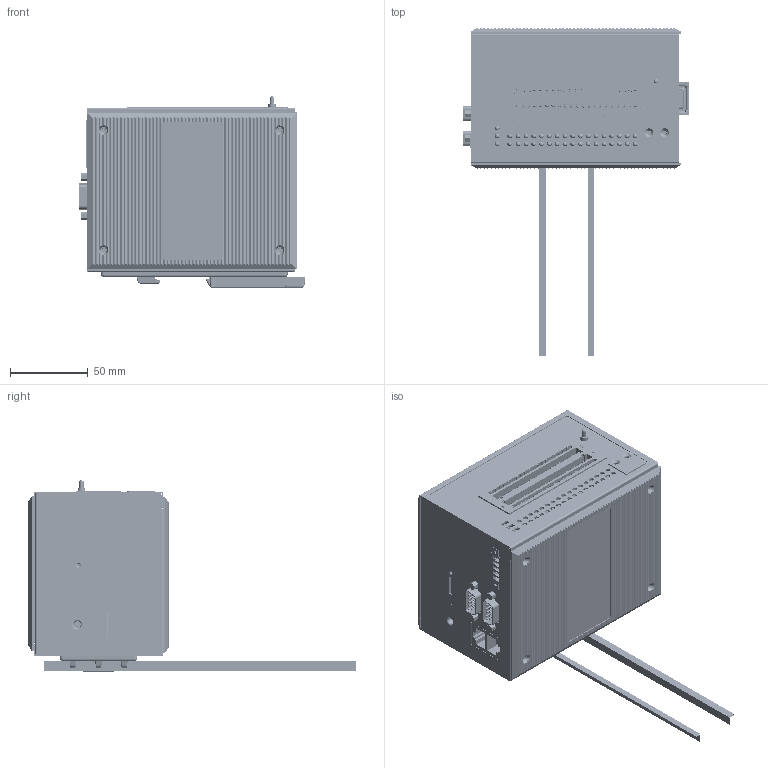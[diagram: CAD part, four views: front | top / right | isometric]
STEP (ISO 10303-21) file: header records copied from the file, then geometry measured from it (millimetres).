
FILE_DESCRIPTION((''),'2;1');
FILE_NAME('PRT0001','2013-12-02T',('Vincent_Huang'),(''),'PRO/ENGINEER BY PARAMETRIC TECHNOLOGY CORPORATION, 2004320','PRO/ENGINEER BY PARAMETRIC TECHNOLOGY CORPORATION, 2004320','');
FILE_SCHEMA(('CONFIG_CONTROL_DESIGN'));
Products named in the file (1): PRT0001
Bounding box: 144.9 x 210.29 x 122.6 mm (x, y, z)
Surface area: 349837.2 mm2 (no closed solid volume)
Topology: 0 solids, 141 shells, 10889 faces, 29080 edges, 18636 vertices
Faces by surface type: plane 6169, cylinder 2845, bspline 1036, cone 334, torus 304, sphere 135, extrusion 66
Entity records: 378365 total; most frequent: CARTESIAN_POINT 113863, ORIENTED_EDGE 57650, DIRECTION 50459, EDGE_CURVE 28893, VECTOR 18673, VERTEX_POINT 18636, LINE 18607, AXIS2_PLACEMENT_3D 15893
